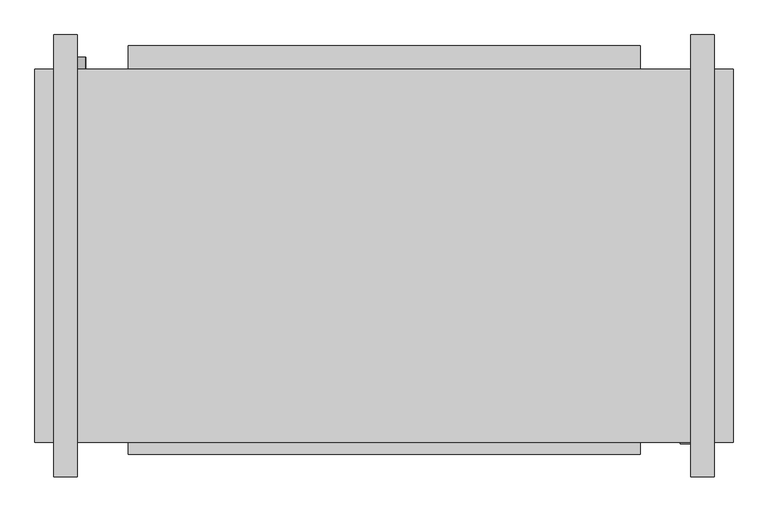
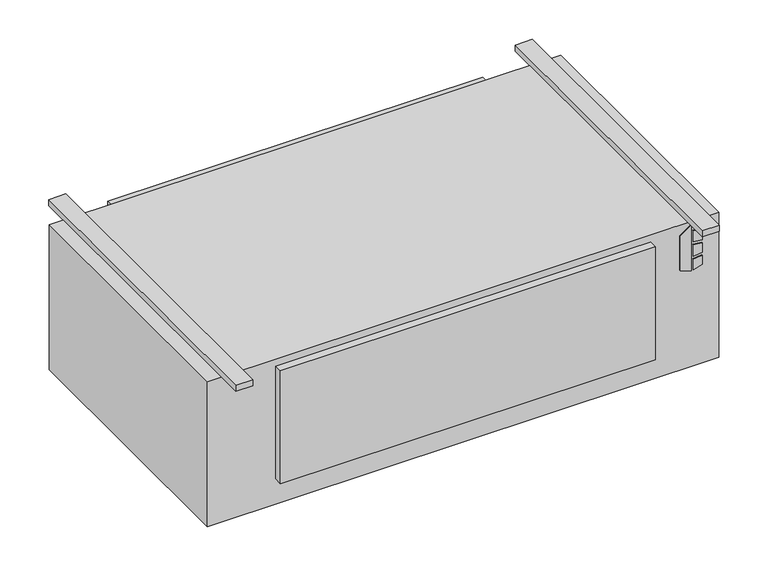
"""IFC4 building model written with IfcOpenShell, lengths in millimetres: proxy geometry, Concealed_High_Capacity_Horizontal_Cabinet_Fan_Coil_Unit_-_HXY_-_IEC_-_2-Pipe_Cool-EHeat_LH_2022 : Size 18 - 277v/60Hz/1Ph - 6 Row 12.0kW."""

from ifc_helpers import new_model, si_unit, point, frame, frame_2d, origin, origin_with_axes, place, context, project, spatial, polyline, circle_curve, trimmed, segment, composite_curve, outline, extrude, source, transform, mapped, element, save


def mechanical_equipment_48f2cf5c(model_context):
    return source(origin(), model_context, "Body", "SweptSolid", [
        extrude(outline(polyline([(-142.4519297, 798.5868862), (-152.4, 830.7602728), (-10.2290756, 830.7602728), (-33.2510817, 798.5868862), (-142.4519297, 798.5868862)])), frame((0.0, -649.2875, 0.0), z_axis=(0.0, 1.0, 0.0), x_axis=(0.0, 0.0, 1.0)), (0.0, 0.0, 1.0), 3.175),
        extrude(outline(polyline([(-63.4526443, 837.5186058), (-66.6550368, 863.6), (-37.4261958, 863.6), (-29.3617807, 837.5186058), (-63.4526443, 837.5186058)])), frame((0.0, -649.2875, 0.0), z_axis=(0.0, 1.0, 0.0), x_axis=(0.0, 0.0, 1.0)), (0.0, 0.0, 1.0), 3.175),
        extrude(outline(polyline([(-115.3161712, 863.6), (-118.9816721, 837.5186058), (-152.4, 837.5186058), (-143.7657628, 863.6), (-115.3161712, 863.6)])), frame((0.0, -649.2875, 0.0), z_axis=(0.0, 1.0, 0.0), x_axis=(0.0, 0.0, 1.0)), (0.0, 0.0, 1.0), 3.175),
        extrude(outline(polyline([(-76.0010097, 863.6), (-73.7191834, 837.5186058), (-109.6567319, 837.5186058), (-106.9154669, 863.6), (-76.0010097, 863.6)])), frame((0.0, -649.2875, 0.0), z_axis=(0.0, 1.0, 0.0), x_axis=(0.0, 0.0, 1.0)), (0.0, 0.0, 1.0), 3.175),
        extrude(outline(composite_curve([segment(trimmed(circle_curve(frame_2d((-406.4, -508.0)), 9.525), [point((-406.4, -517.525))], [point((-406.4, -498.475))], False, "CARTESIAN"), True, "CONTINUOUS"), segment(trimmed(circle_curve(frame_2d((-406.4, -508.0)), 9.525), [point((-406.4, -498.475))], [point((-406.4, -517.525))], False, "CARTESIAN"), True, "CONTINUOUS")], self_intersect=False)), frame((0.0, 169.8625, 0.0), z_axis=(0.0, 1.0, 0.0), x_axis=(0.0, 0.0, 1.0)), (0.0, 0.0, 1.0), 25.4),
        extrude(outline(composite_curve([segment(trimmed(circle_curve(frame_2d((-330.2, -508.0)), 7.9375), [point((-330.2, -515.9375))], [point((-330.2, -500.0625))], False, "CARTESIAN"), True, "CONTINUOUS"), segment(trimmed(circle_curve(frame_2d((-330.2, -508.0)), 7.9375), [point((-330.2, -500.0625))], [point((-330.2, -515.9375))], False, "CARTESIAN"), True, "CONTINUOUS")], self_intersect=False)), frame((0.0, 169.8625, 0.0), z_axis=(0.0, 1.0, 0.0), x_axis=(0.0, 0.0, 1.0)), (0.0, 0.0, 1.0), 25.4),
        extrude(outline(composite_curve([segment(trimmed(circle_curve(frame_2d((-254.0, -508.0)), 7.9375), [point((-254.0, -515.9375))], [point((-254.0, -500.0625))], False, "CARTESIAN"), True, "CONTINUOUS"), segment(trimmed(circle_curve(frame_2d((-254.0, -508.0)), 7.9375), [point((-254.0, -500.0625))], [point((-254.0, -515.9375))], False, "CARTESIAN"), True, "CONTINUOUS")], self_intersect=False)), frame((0.0, 169.8625, 0.0), z_axis=(0.0, 1.0, 0.0), x_axis=(0.0, 0.0, 1.0)), (0.0, 0.0, 1.0), 25.4),
        extrude(outline(polyline([(914.4, 169.8625), (914.4, -646.1125), (-609.6, -646.1125), (-609.6, 169.8625), (914.4, 169.8625)])), frame((0.0, 0.0, -457.2), z_axis=(0.0, 0.0, 1.0), x_axis=(1.0, 0.0, 0.0)), (0.0, 0.0, 1.0), 457.2),
        extrude(outline(polyline([(-406.4, 220.6625), (711.2, 220.6625), (711.2, 169.8625), (-406.4, 169.8625), (-406.4, 220.6625)])), frame((0.0, 0.0, -377.825), z_axis=(0.0, 0.0, 1.0), x_axis=(1.0, 0.0, 0.0)), (0.0, 0.0, 1.0), 349.25),
        extrude(outline(polyline([(-517.525, 244.475), (-517.525, -720.725), (-568.325, -720.725), (-568.325, 244.475), (-517.525, 244.475)])), origin_with_axes(), (0.0, 0.0, 1.0), 19.05),
        extrude(outline(polyline([(873.125, 244.475), (873.125, -720.725), (822.325, -720.725), (822.325, 244.475), (873.125, 244.475)])), origin_with_axes(), (0.0, 0.0, 1.0), 19.05),
        extrude(outline(polyline([(711.2, -671.5125), (-406.4, -671.5125), (-406.4, -646.1125), (711.2, -646.1125), (711.2, -671.5125)])), frame((0.0, 0.0, -377.825), z_axis=(0.0, 0.0, 1.0), x_axis=(1.0, 0.0, 0.0)), (0.0, 0.0, 1.0), 355.6),
    ])


if __name__ == "__main__":
    model = new_model("IFC4")
    model_context = context("Model", 3, world=origin())
    ifc_project = project(units=[si_unit("LENGTHUNIT", "METRE", prefix="MILLI")], contexts=[model_context])
    site = spatial("IfcSite", under=ifc_project)
    building = spatial("IfcBuilding", under=site)
    placement = place(None, origin())
    mechanical_equipment_shape = mechanical_equipment_48f2cf5c(model_context)
    element("IfcBuildingElementProxy", 1, Name="Concealed_High_Capacity_Horizontal_Cabinet_Fan_Coil_Unit_-_HXY_-_IEC_-_2-Pipe_Cool-EHeat_LH_2022 : Size 18 - 277v/60Hz/1Ph - 6 Row 12.0kW", ObjectType="Concealed_High_Capacity_Horizontal_Cabinet_Fan_Coil_Unit_-_HXY_-_IEC_-_2-Pipe_Cool-EHeat_LH_2022 : Size 18 - 277v/60Hz/1Ph - 6 Row 12.0kW", at=placement, inside=building, context=model_context, shape_type="MappedRepresentation", body=[
        mapped(mechanical_equipment_shape, transform((0.0, 0.0, 0.0), x_axis=(1.0, 0.0, 0.0), y_axis=(0.0, 1.0, 0.0), z_axis=(0.0, 0.0, 1.0))),
    ])
    save(model, "model.ifc")
